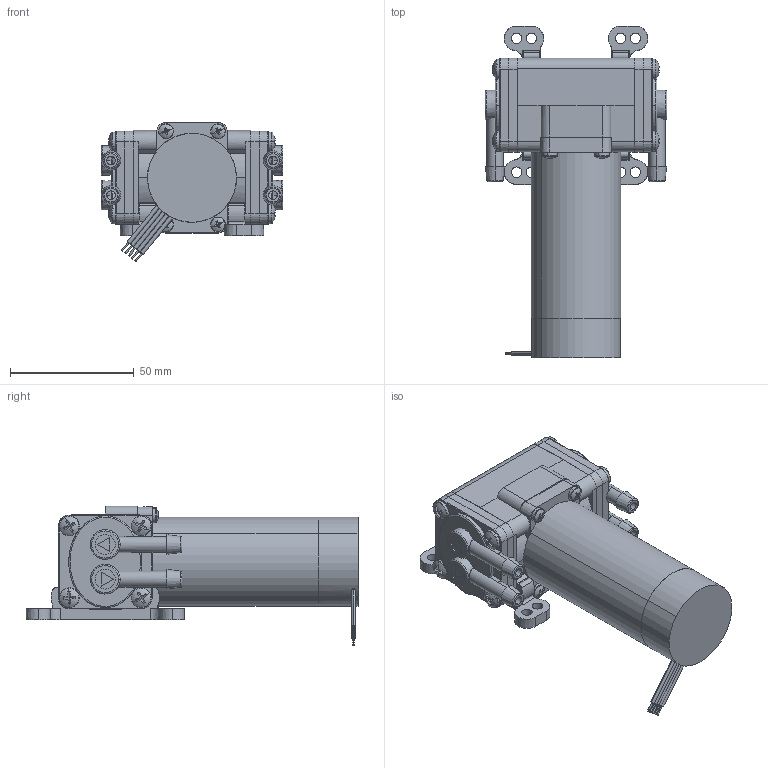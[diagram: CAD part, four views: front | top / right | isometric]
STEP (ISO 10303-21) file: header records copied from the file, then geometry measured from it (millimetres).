
FILE_DESCRIPTION (( 'STEP AP203' ), '1' );
FILE_NAME ('3232 BLDC.STEP', '2017-09-15T16:18:24', ( '' ), ( '' ), 'SwSTEP 2.0', 'SolidWorks 2015', '' );
FILE_SCHEMA (( 'CONFIG_CONTROL_DESIGN' ));
Length unit declared in the file: millimetre
Products named in the file (1): 3232 BLDC
Bounding box: 73.4 x 134.03 x 56.24 mm (x, y, z)
Surface area: 35292.8 mm2 (no closed solid volume)
Topology: 0 solids, 22 shells, 671 faces, 1943 edges, 1302 vertices
Faces by surface type: plane 318, cylinder 150, cone 73, torus 72, bspline 34, sphere 24
Entity records: 26775 total; most frequent: CARTESIAN_POINT 9074, DIRECTION 3825, ORIENTED_EDGE 3420, EDGE_CURVE 1943, AXIS2_PLACEMENT_3D 1487, VERTEX_POINT 1302, VECTOR 851, LINE 851
